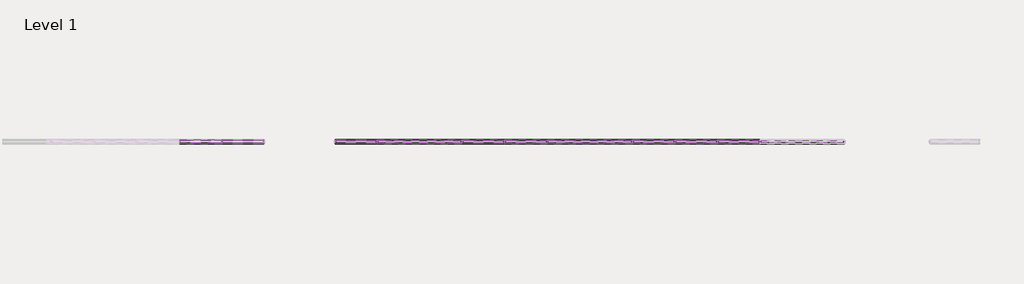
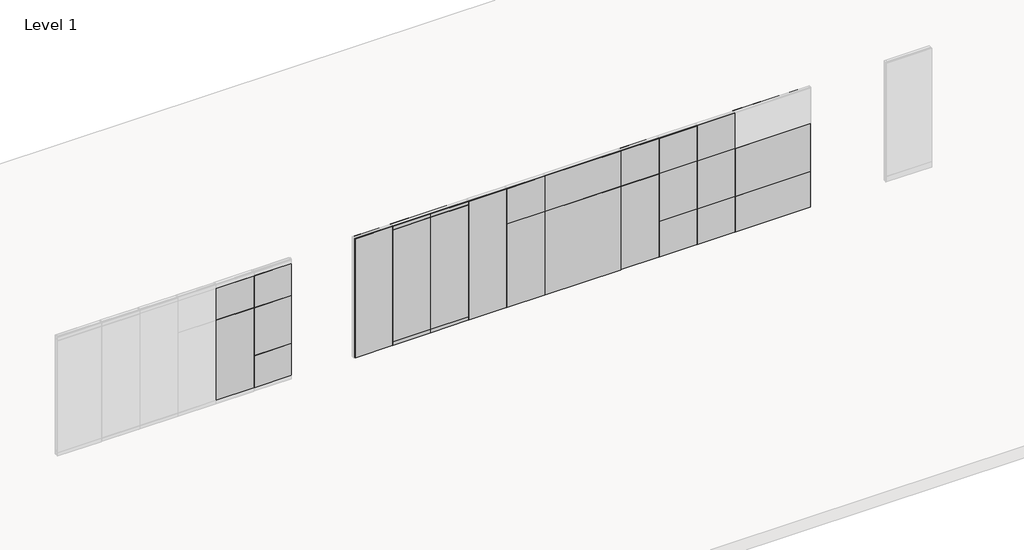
# One storey, part 6 of 22: 107 proxies.
"""IFC4 building model written with IfcOpenShell, lengths in millimetres."""

from ifc_helpers import new_model, si_unit, origin, place, context, project, spatial, transform, mapped, element, save
from components import fascia_teknion_ceiling_and_base_fpb1_b7746e3f, fascia_teknion_ceiling_and_base_fpb1_fca0640a, fascia_teknion_ceiling_and_base_fpb1_086ac043, fascia_teknion_ceiling_and_base_fpb1_76749516, fascia_teknion_ceiling_and_base_fpb1_e3f5eff7, fascia_teknion_ceiling_and_base_fpb1_3a73742f, frame_teknion_horizontal_rail_5872ae1a, frame_teknion_horizontal_rail_46ee653b, frame_teknion_horizontal_rail_5dd37d62, frame_teknion_horizontal_rail_fbfe6c54, full_f94a2816, full_1a342aed, full_e445f669, level_i_215115a4, level_i_cf48de54, level_i_c1e683c6, level_i_87b26980, level_i_0481ec7f, level_ii_d92933f0, level_ii_5838736d, level_ii_d9937d3a, level_ii_c8f04d20, level_ii_2f074b98, level_iii_17d9b208, level_iii_d208549f, level_iii_3557bc1e, level_iii_57fc346d, level_iii_7577bcf6, monolithic_level_i_61e75e15, monolithic_level_i_13c59c03, segmented_level_i_b619f2b0, segmented_level_i_812e5143, segmented_level_i_235b6383, segmented_level_ii_95ed46a7, segmented_level_ii_6dac37f0, segmented_monolithic_level_i_26a9d159, segmented_monolithic_level_i_864a3625, segmented_monolithic_level_ii_ef75357c, segmented_monolithic_level_ii_36634c45, smart_fascia_73ffb3d4, working_wall_monolithic_level_i_ddfac440, working_wall_monolithic_level_i_dfc08b04

model = new_model("IFC4")

# Units and contexts
model_context = context("Model", 3, world=origin())
ifc_project = project(units=[si_unit("LENGTHUNIT", "METRE", prefix="MILLI")], contexts=[model_context])

# Site, building, storey
site = spatial("IfcSite", under=ifc_project)
building = spatial("IfcBuilding", under=site)
storey = spatial("IfcBuildingStorey", under=building, Name="Level 1", Elevation=0.0)

# Proxies
placement = place(None, origin())
fascia_teknion_ceiling_and_base_fpb1_shape = fascia_teknion_ceiling_and_base_fpb1_b7746e3f(model_context)
element("IfcBuildingElementProxy", 1, Name="Fascia-Teknion-Ceiling_and_Base : FPB1", ObjectType="Fascia-Teknion-Ceiling_and_Base : FPB1", at=placement, inside=storey, context=model_context, shape_type="MappedRepresentation", body=[
    mapped(fascia_teknion_ceiling_and_base_fpb1_shape, transform((-79003.3636663, 1843.3402105, 15.875), x_axis=(1.0, 0.0, 0.0), y_axis=(0.0, 1.0, 0.0), z_axis=(0.0, 0.0, 1.0))),
])
fascia_teknion_ceiling_and_base_fpb1_2_shape = fascia_teknion_ceiling_and_base_fpb1_fca0640a(model_context)
element("IfcBuildingElementProxy", 2, Name="Fascia-Teknion-Ceiling_and_Base : FPB1", ObjectType="Fascia-Teknion-Ceiling_and_Base : FPB1", at=placement, inside=storey, context=model_context, shape_type="MappedRepresentation", body=[
    mapped(fascia_teknion_ceiling_and_base_fpb1_2_shape, transform((-84939.9687444, 1843.3402105, 15.875), x_axis=(1.0, 0.0, 0.0), y_axis=(0.0, 1.0, 0.0), z_axis=(0.0, 0.0, 1.0))),
])
element("IfcBuildingElementProxy", 3, Name="Fascia-Teknion-Ceiling_and_Base : FPB1", ObjectType="Fascia-Teknion-Ceiling_and_Base : FPB1", at=placement, inside=storey, context=model_context, shape_type="MappedRepresentation", body=[
    mapped(fascia_teknion_ceiling_and_base_fpb1_2_shape, transform((-82196.7687444, 1843.3402105, 15.875), x_axis=(1.0, 0.0, 0.0), y_axis=(0.0, 1.0, 0.0), z_axis=(0.0, 0.0, 1.0))),
])
element("IfcBuildingElementProxy", 4, Name="Fascia-Teknion-Ceiling_and_Base : FPB1", ObjectType="Fascia-Teknion-Ceiling_and_Base : FPB1", at=placement, inside=storey, context=model_context, shape_type="MappedRepresentation", body=[
    mapped(fascia_teknion_ceiling_and_base_fpb1_2_shape, transform((-81282.3687444, 1843.3402105, 15.875), x_axis=(1.0, 0.0, 0.0), y_axis=(0.0, 1.0, 0.0), z_axis=(0.0, 0.0, 1.0))),
])
element("IfcBuildingElementProxy", 5, Name="Fascia-Teknion-Ceiling_and_Base : FPB1", ObjectType="Fascia-Teknion-Ceiling_and_Base : FPB1", at=placement, inside=storey, context=model_context, shape_type="MappedRepresentation", body=[
    mapped(fascia_teknion_ceiling_and_base_fpb1_2_shape, transform((-80367.9687444, 1843.3402105, 15.875), x_axis=(1.0, 0.0, 0.0), y_axis=(0.0, 1.0, 0.0), z_axis=(0.0, 0.0, 1.0))),
])
element("IfcBuildingElementProxy", 6, Name="Fascia-Teknion-Ceiling_and_Base : FPB1", ObjectType="Fascia-Teknion-Ceiling_and_Base : FPB1", at=placement, inside=storey, context=model_context, shape_type="MappedRepresentation", body=[
    mapped(fascia_teknion_ceiling_and_base_fpb1_2_shape, transform((-85854.3687444, 1843.3402105, 15.875), x_axis=(1.0, 0.0, 0.0), y_axis=(0.0, 1.0, 0.0), z_axis=(0.0, 0.0, 1.0))),
])
fascia_teknion_ceiling_and_base_fpb1_3_shape = fascia_teknion_ceiling_and_base_fpb1_086ac043(model_context)
element("IfcBuildingElementProxy", 7, Name="Fascia-Teknion-Ceiling_and_Base : FPB1", ObjectType="Fascia-Teknion-Ceiling_and_Base : FPB1", at=placement, inside=storey, context=model_context, shape_type="MappedRepresentation", body=[
    mapped(fascia_teknion_ceiling_and_base_fpb1_3_shape, transform((-83568.3687444, 1843.3402105, 15.875), x_axis=(1.0, 0.0, 0.0), y_axis=(0.0, 1.0, 0.0), z_axis=(0.0, 0.0, 1.0))),
])
fascia_teknion_ceiling_and_base_fpb1_4_shape = fascia_teknion_ceiling_and_base_fpb1_76749516(model_context)
element("IfcBuildingElementProxy", 8, Name="Fascia-Teknion-Ceiling_and_Base : FPB1", ObjectType="Fascia-Teknion-Ceiling_and_Base : FPB1", at=placement, inside=storey, context=model_context, shape_type="MappedRepresentation", body=[
    mapped(fascia_teknion_ceiling_and_base_fpb1_4_shape, transform((-88590.5738225, 1843.3402105, 15.875), x_axis=(1.0, 0.0, 0.0), y_axis=(0.0, 1.0, 0.0), z_axis=(0.0, 0.0, 1.0))),
])
fascia_teknion_ceiling_and_base_fpb1_5_shape = fascia_teknion_ceiling_and_base_fpb1_e3f5eff7(model_context)
element("IfcBuildingElementProxy", 9, Name="Fascia-Teknion-Ceiling_and_Base : FPB1", ObjectType="Fascia-Teknion-Ceiling_and_Base : FPB1", at=placement, inside=storey, context=model_context, shape_type="MappedRepresentation", body=[
    mapped(fascia_teknion_ceiling_and_base_fpb1_5_shape, transform((-87681.5812444, 1843.3402105, 15.875), x_axis=(1.0, 0.0, 0.0), y_axis=(0.0, 1.0, 0.0), z_axis=(0.0, 0.0, 1.0))),
])
element("IfcBuildingElementProxy", 10, Name="Fascia-Teknion-Ceiling_and_Base : FPB1", ObjectType="Fascia-Teknion-Ceiling_and_Base : FPB1", at=placement, inside=storey, context=model_context, shape_type="MappedRepresentation", body=[
    mapped(fascia_teknion_ceiling_and_base_fpb1_5_shape, transform((-86770.3562444, 1781.3642105, 15.875), x_axis=(-1.0, 0.0, 0.0), y_axis=(0.0, -1.0, 0.0), z_axis=(0.0, 0.0, 1.0))),
])
fascia_teknion_ceiling_and_base_fpb1_6_shape = fascia_teknion_ceiling_and_base_fpb1_3a73742f(model_context)
element("IfcBuildingElementProxy", 11, Name="Fascia-Teknion-Ceiling_and_Base : FPB1", ObjectType="Fascia-Teknion-Ceiling_and_Base : FPB1", at=placement, inside=storey, context=model_context, shape_type="MappedRepresentation", body=[
    mapped(fascia_teknion_ceiling_and_base_fpb1_6_shape, transform((-87681.5812444, 1781.3642105, 15.875), x_axis=(1.0, 0.0, 0.0), y_axis=(0.0, 1.0, 0.0), z_axis=(0.0, 0.0, 1.0))),
])
element("IfcBuildingElementProxy", 12, Name="Fascia-Teknion-Ceiling_and_Base : FPB1", ObjectType="Fascia-Teknion-Ceiling_and_Base : FPB1", at=placement, inside=storey, context=model_context, shape_type="MappedRepresentation", body=[
    mapped(fascia_teknion_ceiling_and_base_fpb1_6_shape, transform((-86770.3562444, 1843.3402105, 15.875), x_axis=(-1.0, 0.0, 0.0), y_axis=(0.0, -1.0, 0.0), z_axis=(0.0, 0.0, 1.0))),
])
element("IfcBuildingElementProxy", 13, Name="Fascia-Teknion-Ceiling_and_Base : FPC", ObjectType="Fascia-Teknion-Ceiling_and_Base : FPC", at=placement, inside=storey, context=model_context, shape_type="MappedRepresentation", body=[
    mapped(fascia_teknion_ceiling_and_base_fpb1_shape, transform((-79003.3636663, 1843.3402105, 2950.845), x_axis=(1.0, 0.0, 0.0), y_axis=(0.0, 1.0, 0.0), z_axis=(0.0, 0.0, 1.0))),
])
element("IfcBuildingElementProxy", 14, Name="Fascia-Teknion-Ceiling_and_Base : FPC", ObjectType="Fascia-Teknion-Ceiling_and_Base : FPC", at=placement, inside=storey, context=model_context, shape_type="MappedRepresentation", body=[
    mapped(fascia_teknion_ceiling_and_base_fpb1_2_shape, transform((-84939.9687444, 1843.3402105, 2950.845), x_axis=(1.0, 0.0, 0.0), y_axis=(0.0, 1.0, 0.0), z_axis=(0.0, 0.0, 1.0))),
])
element("IfcBuildingElementProxy", 15, Name="Fascia-Teknion-Ceiling_and_Base : FPC", ObjectType="Fascia-Teknion-Ceiling_and_Base : FPC", at=placement, inside=storey, context=model_context, shape_type="MappedRepresentation", body=[
    mapped(fascia_teknion_ceiling_and_base_fpb1_2_shape, transform((-82196.7687444, 1843.3402105, 2950.845), x_axis=(1.0, 0.0, 0.0), y_axis=(0.0, 1.0, 0.0), z_axis=(0.0, 0.0, 1.0))),
])
element("IfcBuildingElementProxy", 16, Name="Fascia-Teknion-Ceiling_and_Base : FPC", ObjectType="Fascia-Teknion-Ceiling_and_Base : FPC", at=placement, inside=storey, context=model_context, shape_type="MappedRepresentation", body=[
    mapped(fascia_teknion_ceiling_and_base_fpb1_2_shape, transform((-81282.3687444, 1843.3402105, 2950.845), x_axis=(1.0, 0.0, 0.0), y_axis=(0.0, 1.0, 0.0), z_axis=(0.0, 0.0, 1.0))),
])
element("IfcBuildingElementProxy", 17, Name="Fascia-Teknion-Ceiling_and_Base : FPC", ObjectType="Fascia-Teknion-Ceiling_and_Base : FPC", at=placement, inside=storey, context=model_context, shape_type="MappedRepresentation", body=[
    mapped(fascia_teknion_ceiling_and_base_fpb1_2_shape, transform((-80367.9687444, 1843.3402105, 2950.845), x_axis=(1.0, 0.0, 0.0), y_axis=(0.0, 1.0, 0.0), z_axis=(0.0, 0.0, 1.0))),
])
element("IfcBuildingElementProxy", 18, Name="Fascia-Teknion-Ceiling_and_Base : FPC", ObjectType="Fascia-Teknion-Ceiling_and_Base : FPC", at=placement, inside=storey, context=model_context, shape_type="MappedRepresentation", body=[
    mapped(fascia_teknion_ceiling_and_base_fpb1_2_shape, transform((-85854.3687444, 1843.3402105, 2950.845), x_axis=(1.0, 0.0, 0.0), y_axis=(0.0, 1.0, 0.0), z_axis=(0.0, 0.0, 1.0))),
])
element("IfcBuildingElementProxy", 19, Name="Fascia-Teknion-Ceiling_and_Base : FPC", ObjectType="Fascia-Teknion-Ceiling_and_Base : FPC", at=placement, inside=storey, context=model_context, shape_type="MappedRepresentation", body=[
    mapped(fascia_teknion_ceiling_and_base_fpb1_3_shape, transform((-83568.3687444, 1843.3402105, 2950.845), x_axis=(1.0, 0.0, 0.0), y_axis=(0.0, 1.0, 0.0), z_axis=(0.0, 0.0, 1.0))),
])
element("IfcBuildingElementProxy", 20, Name="Fascia-Teknion-Ceiling_and_Base : FPC", ObjectType="Fascia-Teknion-Ceiling_and_Base : FPC", at=placement, inside=storey, context=model_context, shape_type="MappedRepresentation", body=[
    mapped(fascia_teknion_ceiling_and_base_fpb1_4_shape, transform((-88590.5738225, 1843.3402105, 2950.845), x_axis=(1.0, 0.0, 0.0), y_axis=(0.0, 1.0, 0.0), z_axis=(0.0, 0.0, 1.0))),
])
element("IfcBuildingElementProxy", 21, Name="Fascia-Teknion-Ceiling_and_Base : FPC", ObjectType="Fascia-Teknion-Ceiling_and_Base : FPC", at=placement, inside=storey, context=model_context, shape_type="MappedRepresentation", body=[
    mapped(fascia_teknion_ceiling_and_base_fpb1_5_shape, transform((-87681.5812444, 1843.3402105, 2950.845), x_axis=(1.0, 0.0, 0.0), y_axis=(0.0, 1.0, 0.0), z_axis=(0.0, 0.0, 1.0))),
])
element("IfcBuildingElementProxy", 22, Name="Fascia-Teknion-Ceiling_and_Base : FPC", ObjectType="Fascia-Teknion-Ceiling_and_Base : FPC", at=placement, inside=storey, context=model_context, shape_type="MappedRepresentation", body=[
    mapped(fascia_teknion_ceiling_and_base_fpb1_5_shape, transform((-86770.3562444, 1781.3642105, 2950.845), x_axis=(-1.0, 0.0, 0.0), y_axis=(0.0, -1.0, 0.0), z_axis=(0.0, 0.0, 1.0))),
])
element("IfcBuildingElementProxy", 23, Name="Fascia-Teknion-Ceiling_and_Base : FPC", ObjectType="Fascia-Teknion-Ceiling_and_Base : FPC", at=placement, inside=storey, context=model_context, shape_type="MappedRepresentation", body=[
    mapped(fascia_teknion_ceiling_and_base_fpb1_6_shape, transform((-87681.5812444, 1781.3642105, 2950.845), x_axis=(1.0, 0.0, 0.0), y_axis=(0.0, 1.0, 0.0), z_axis=(0.0, 0.0, 1.0))),
])
element("IfcBuildingElementProxy", 24, Name="Fascia-Teknion-Ceiling_and_Base : FPC", ObjectType="Fascia-Teknion-Ceiling_and_Base : FPC", at=placement, inside=storey, context=model_context, shape_type="MappedRepresentation", body=[
    mapped(fascia_teknion_ceiling_and_base_fpb1_6_shape, transform((-86770.3562444, 1843.3402105, 2950.845), x_axis=(-1.0, 0.0, 0.0), y_axis=(0.0, -1.0, 0.0), z_axis=(0.0, 0.0, 1.0))),
])
frame_teknion_horizontal_rail_shape = frame_teknion_horizontal_rail_5872ae1a(model_context)
element("IfcBuildingElementProxy", 25, Name="Frame-Teknion-Horizontal_Rail : FPKK", ObjectType="Frame-Teknion-Horizontal_Rail : FPKK", at=placement, inside=storey, context=model_context, shape_type="MappedRepresentation", body=[
    mapped(frame_teknion_horizontal_rail_shape, transform((-88590.5738225, 1812.3522105, 917.575), x_axis=(1.0, 0.0, 0.0), y_axis=(0.0, 1.0, 0.0), z_axis=(0.0, 0.0, 1.0))),
])
element("IfcBuildingElementProxy", 26, Name="Frame-Teknion-Horizontal_Rail : FPKK", ObjectType="Frame-Teknion-Horizontal_Rail : FPKK", at=placement, inside=storey, context=model_context, shape_type="MappedRepresentation", body=[
    mapped(frame_teknion_horizontal_rail_shape, transform((-88590.5738225, 1812.3522105, 2136.775), x_axis=(1.0, 0.0, 0.0), y_axis=(0.0, 1.0, 0.0), z_axis=(0.0, 0.0, 1.0))),
])
element("IfcBuildingElementProxy", 27, Name="Frame-Teknion-Horizontal_Rail : FPKK", ObjectType="Frame-Teknion-Horizontal_Rail : FPKK", at=placement, inside=storey, context=model_context, shape_type="MappedRepresentation", body=[
    mapped(frame_teknion_horizontal_rail_shape, transform((-88590.5738225, 1812.3522105, 100.457), x_axis=(1.0, 0.0, 0.0), y_axis=(0.0, 1.0, 0.0), z_axis=(0.0, 0.0, 1.0))),
])
element("IfcBuildingElementProxy", 28, Name="Frame-Teknion-Horizontal_Rail : FPKK", ObjectType="Frame-Teknion-Horizontal_Rail : FPKK", at=placement, inside=storey, context=model_context, shape_type="MappedRepresentation", body=[
    mapped(frame_teknion_horizontal_rail_shape, transform((-88590.5738225, 1812.3522105, 2949.1305), x_axis=(1.0, 0.0, 0.0), y_axis=(0.0, 1.0, 0.0), z_axis=(0.0, 0.0, 1.0))),
])
element("IfcBuildingElementProxy", 29, Name="Frame-Teknion-Horizontal_Rail : FPKK", ObjectType="Frame-Teknion-Horizontal_Rail : FPKK", at=placement, inside=storey, context=model_context, shape_type="MappedRepresentation", body=[
    mapped(frame_teknion_horizontal_rail_shape, transform((-91017.5636663, 1812.3522105, 97.155), x_axis=(1.0, 0.0, 0.0), y_axis=(0.0, 1.0, 0.0), z_axis=(0.0, 0.0, 1.0))),
])
element("IfcBuildingElementProxy", 30, Name="Frame-Teknion-Horizontal_Rail : FPKK", ObjectType="Frame-Teknion-Horizontal_Rail : FPKK", at=placement, inside=storey, context=model_context, shape_type="MappedRepresentation", body=[
    mapped(frame_teknion_horizontal_rail_shape, transform((-91017.5636663, 1812.3522105, 2949.1305), x_axis=(1.0, 0.0, 0.0), y_axis=(0.0, 1.0, 0.0), z_axis=(0.0, 0.0, 1.0))),
])
frame_teknion_horizontal_rail_2_shape = frame_teknion_horizontal_rail_46ee653b(model_context)
element("IfcBuildingElementProxy", 31, Name="Frame-Teknion-Horizontal_Rail : FPKK", ObjectType="Frame-Teknion-Horizontal_Rail : FPKK", at=placement, inside=storey, context=model_context, shape_type="MappedRepresentation", body=[
    mapped(frame_teknion_horizontal_rail_2_shape, transform((-85854.3687444, 1812.3522105, 2136.775), x_axis=(1.0, 0.0, 0.0), y_axis=(0.0, 1.0, 0.0), z_axis=(0.0, 0.0, 1.0))),
])
element("IfcBuildingElementProxy", 32, Name="Frame-Teknion-Horizontal_Rail : FPKK", ObjectType="Frame-Teknion-Horizontal_Rail : FPKK", at=placement, inside=storey, context=model_context, shape_type="MappedRepresentation", body=[
    mapped(frame_teknion_horizontal_rail_2_shape, transform((-85854.3687444, 1812.3522105, 100.457), x_axis=(1.0, 0.0, 0.0), y_axis=(0.0, 1.0, 0.0), z_axis=(0.0, 0.0, 1.0))),
])
element("IfcBuildingElementProxy", 33, Name="Frame-Teknion-Horizontal_Rail : FPKK", ObjectType="Frame-Teknion-Horizontal_Rail : FPKK", at=placement, inside=storey, context=model_context, shape_type="MappedRepresentation", body=[
    mapped(frame_teknion_horizontal_rail_2_shape, transform((-85854.3687444, 1812.3522105, 2949.1305), x_axis=(1.0, 0.0, 0.0), y_axis=(0.0, 1.0, 0.0), z_axis=(0.0, 0.0, 1.0))),
])
element("IfcBuildingElementProxy", 34, Name="Frame-Teknion-Horizontal_Rail : FPKK", ObjectType="Frame-Teknion-Horizontal_Rail : FPKK", at=placement, inside=storey, context=model_context, shape_type="MappedRepresentation", body=[
    mapped(frame_teknion_horizontal_rail_2_shape, transform((-84939.9687444, 1812.3522105, 2136.775), x_axis=(1.0, 0.0, 0.0), y_axis=(0.0, 1.0, 0.0), z_axis=(0.0, 0.0, 1.0))),
])
element("IfcBuildingElementProxy", 35, Name="Frame-Teknion-Horizontal_Rail : FPKK", ObjectType="Frame-Teknion-Horizontal_Rail : FPKK", at=placement, inside=storey, context=model_context, shape_type="MappedRepresentation", body=[
    mapped(frame_teknion_horizontal_rail_2_shape, transform((-84939.9687444, 1812.3522105, 100.457), x_axis=(1.0, 0.0, 0.0), y_axis=(0.0, 1.0, 0.0), z_axis=(0.0, 0.0, 1.0))),
])
element("IfcBuildingElementProxy", 36, Name="Frame-Teknion-Horizontal_Rail : FPKK", ObjectType="Frame-Teknion-Horizontal_Rail : FPKK", at=placement, inside=storey, context=model_context, shape_type="MappedRepresentation", body=[
    mapped(frame_teknion_horizontal_rail_2_shape, transform((-84939.9687444, 1812.3522105, 2949.1305), x_axis=(1.0, 0.0, 0.0), y_axis=(0.0, 1.0, 0.0), z_axis=(0.0, 0.0, 1.0))),
])
element("IfcBuildingElementProxy", 37, Name="Frame-Teknion-Horizontal_Rail : FPKK", ObjectType="Frame-Teknion-Horizontal_Rail : FPKK", at=placement, inside=storey, context=model_context, shape_type="MappedRepresentation", body=[
    mapped(frame_teknion_horizontal_rail_2_shape, transform((-82196.7687444, 1812.3522105, 917.575), x_axis=(1.0, 0.0, 0.0), y_axis=(0.0, 1.0, 0.0), z_axis=(0.0, 0.0, 1.0))),
])
element("IfcBuildingElementProxy", 38, Name="Frame-Teknion-Horizontal_Rail : FPKK", ObjectType="Frame-Teknion-Horizontal_Rail : FPKK", at=placement, inside=storey, context=model_context, shape_type="MappedRepresentation", body=[
    mapped(frame_teknion_horizontal_rail_2_shape, transform((-82196.7687444, 1812.3522105, 2136.775), x_axis=(1.0, 0.0, 0.0), y_axis=(0.0, 1.0, 0.0), z_axis=(0.0, 0.0, 1.0))),
])
element("IfcBuildingElementProxy", 39, Name="Frame-Teknion-Horizontal_Rail : FPKK", ObjectType="Frame-Teknion-Horizontal_Rail : FPKK", at=placement, inside=storey, context=model_context, shape_type="MappedRepresentation", body=[
    mapped(frame_teknion_horizontal_rail_2_shape, transform((-82196.7687444, 1812.3522105, 100.457), x_axis=(1.0, 0.0, 0.0), y_axis=(0.0, 1.0, 0.0), z_axis=(0.0, 0.0, 1.0))),
])
element("IfcBuildingElementProxy", 40, Name="Frame-Teknion-Horizontal_Rail : FPKK", ObjectType="Frame-Teknion-Horizontal_Rail : FPKK", at=placement, inside=storey, context=model_context, shape_type="MappedRepresentation", body=[
    mapped(frame_teknion_horizontal_rail_2_shape, transform((-82196.7687444, 1812.3522105, 2949.1305), x_axis=(1.0, 0.0, 0.0), y_axis=(0.0, 1.0, 0.0), z_axis=(0.0, 0.0, 1.0))),
])
element("IfcBuildingElementProxy", 41, Name="Frame-Teknion-Horizontal_Rail : FPKK", ObjectType="Frame-Teknion-Horizontal_Rail : FPKK", at=placement, inside=storey, context=model_context, shape_type="MappedRepresentation", body=[
    mapped(frame_teknion_horizontal_rail_2_shape, transform((-81282.3687444, 1812.3522105, 917.575), x_axis=(1.0, 0.0, 0.0), y_axis=(0.0, 1.0, 0.0), z_axis=(0.0, 0.0, 1.0))),
])
element("IfcBuildingElementProxy", 42, Name="Frame-Teknion-Horizontal_Rail : FPKK", ObjectType="Frame-Teknion-Horizontal_Rail : FPKK", at=placement, inside=storey, context=model_context, shape_type="MappedRepresentation", body=[
    mapped(frame_teknion_horizontal_rail_2_shape, transform((-81282.3687444, 1812.3522105, 2136.775), x_axis=(1.0, 0.0, 0.0), y_axis=(0.0, 1.0, 0.0), z_axis=(0.0, 0.0, 1.0))),
])
element("IfcBuildingElementProxy", 43, Name="Frame-Teknion-Horizontal_Rail : FPKK", ObjectType="Frame-Teknion-Horizontal_Rail : FPKK", at=placement, inside=storey, context=model_context, shape_type="MappedRepresentation", body=[
    mapped(frame_teknion_horizontal_rail_2_shape, transform((-81282.3687444, 1812.3522105, 100.457), x_axis=(1.0, 0.0, 0.0), y_axis=(0.0, 1.0, 0.0), z_axis=(0.0, 0.0, 1.0))),
])
element("IfcBuildingElementProxy", 44, Name="Frame-Teknion-Horizontal_Rail : FPKK", ObjectType="Frame-Teknion-Horizontal_Rail : FPKK", at=placement, inside=storey, context=model_context, shape_type="MappedRepresentation", body=[
    mapped(frame_teknion_horizontal_rail_2_shape, transform((-81282.3687444, 1812.3522105, 2949.1305), x_axis=(1.0, 0.0, 0.0), y_axis=(0.0, 1.0, 0.0), z_axis=(0.0, 0.0, 1.0))),
])
element("IfcBuildingElementProxy", 45, Name="Frame-Teknion-Horizontal_Rail : FPKK", ObjectType="Frame-Teknion-Horizontal_Rail : FPKK", at=placement, inside=storey, context=model_context, shape_type="MappedRepresentation", body=[
    mapped(frame_teknion_horizontal_rail_2_shape, transform((-80367.9687444, 1812.3522105, 917.575), x_axis=(1.0, 0.0, 0.0), y_axis=(0.0, 1.0, 0.0), z_axis=(0.0, 0.0, 1.0))),
])
element("IfcBuildingElementProxy", 46, Name="Frame-Teknion-Horizontal_Rail : FPKK", ObjectType="Frame-Teknion-Horizontal_Rail : FPKK", at=placement, inside=storey, context=model_context, shape_type="MappedRepresentation", body=[
    mapped(frame_teknion_horizontal_rail_2_shape, transform((-80367.9687444, 1812.3522105, 2136.775), x_axis=(1.0, 0.0, 0.0), y_axis=(0.0, 1.0, 0.0), z_axis=(0.0, 0.0, 1.0))),
])
element("IfcBuildingElementProxy", 47, Name="Frame-Teknion-Horizontal_Rail : FPKK", ObjectType="Frame-Teknion-Horizontal_Rail : FPKK", at=placement, inside=storey, context=model_context, shape_type="MappedRepresentation", body=[
    mapped(frame_teknion_horizontal_rail_2_shape, transform((-80367.9687444, 1812.3522105, 100.457), x_axis=(1.0, 0.0, 0.0), y_axis=(0.0, 1.0, 0.0), z_axis=(0.0, 0.0, 1.0))),
])
element("IfcBuildingElementProxy", 48, Name="Frame-Teknion-Horizontal_Rail : FPKK", ObjectType="Frame-Teknion-Horizontal_Rail : FPKK", at=placement, inside=storey, context=model_context, shape_type="MappedRepresentation", body=[
    mapped(frame_teknion_horizontal_rail_2_shape, transform((-80367.9687444, 1812.3522105, 2949.1305), x_axis=(1.0, 0.0, 0.0), y_axis=(0.0, 1.0, 0.0), z_axis=(0.0, 0.0, 1.0))),
])
element("IfcBuildingElementProxy", 49, Name="Frame-Teknion-Horizontal_Rail : FPKK", ObjectType="Frame-Teknion-Horizontal_Rail : FPKK", at=placement, inside=storey, context=model_context, shape_type="MappedRepresentation", body=[
    mapped(frame_teknion_horizontal_rail_2_shape, transform((-91924.9687444, 1812.3522105, 97.155), x_axis=(1.0, 0.0, 0.0), y_axis=(0.0, 1.0, 0.0), z_axis=(0.0, 0.0, 1.0))),
])
element("IfcBuildingElementProxy", 50, Name="Frame-Teknion-Horizontal_Rail : FPKK", ObjectType="Frame-Teknion-Horizontal_Rail : FPKK", at=placement, inside=storey, context=model_context, shape_type="MappedRepresentation", body=[
    mapped(frame_teknion_horizontal_rail_2_shape, transform((-91924.9687444, 1812.3522105, 2949.1305), x_axis=(1.0, 0.0, 0.0), y_axis=(0.0, 1.0, 0.0), z_axis=(0.0, 0.0, 1.0))),
])
frame_teknion_horizontal_rail_3_shape = frame_teknion_horizontal_rail_5dd37d62(model_context)
element("IfcBuildingElementProxy", 51, Name="Frame-Teknion-Horizontal_Rail : FPKK", ObjectType="Frame-Teknion-Horizontal_Rail : FPKK", at=placement, inside=storey, context=model_context, shape_type="MappedRepresentation", body=[
    mapped(frame_teknion_horizontal_rail_3_shape, transform((-83568.3687444, 1812.3522105, 2136.775), x_axis=(1.0, 0.0, 0.0), y_axis=(0.0, 1.0, 0.0), z_axis=(0.0, 0.0, 1.0))),
])
element("IfcBuildingElementProxy", 52, Name="Frame-Teknion-Horizontal_Rail : FPKK", ObjectType="Frame-Teknion-Horizontal_Rail : FPKK", at=placement, inside=storey, context=model_context, shape_type="MappedRepresentation", body=[
    mapped(frame_teknion_horizontal_rail_3_shape, transform((-83568.3687444, 1812.3522105, 100.457), x_axis=(1.0, 0.0, 0.0), y_axis=(0.0, 1.0, 0.0), z_axis=(0.0, 0.0, 1.0))),
])
element("IfcBuildingElementProxy", 53, Name="Frame-Teknion-Horizontal_Rail : FPKK", ObjectType="Frame-Teknion-Horizontal_Rail : FPKK", at=placement, inside=storey, context=model_context, shape_type="MappedRepresentation", body=[
    mapped(frame_teknion_horizontal_rail_3_shape, transform((-83568.3687444, 1812.3522105, 2949.1305), x_axis=(1.0, 0.0, 0.0), y_axis=(0.0, 1.0, 0.0), z_axis=(0.0, 0.0, 1.0))),
])
element("IfcBuildingElementProxy", 54, Name="Frame-Teknion-Horizontal_Rail : FPKK", ObjectType="Frame-Teknion-Horizontal_Rail : FPKK", at=placement, inside=storey, context=model_context, shape_type="MappedRepresentation", body=[
    mapped(frame_teknion_horizontal_rail_3_shape, transform((-87225.9687444, 1812.3522105, 917.575), x_axis=(1.0, 0.0, 0.0), y_axis=(0.0, 1.0, 0.0), z_axis=(0.0, 0.0, 1.0))),
])
element("IfcBuildingElementProxy", 55, Name="Frame-Teknion-Horizontal_Rail : FPKK", ObjectType="Frame-Teknion-Horizontal_Rail : FPKK", at=placement, inside=storey, context=model_context, shape_type="MappedRepresentation", body=[
    mapped(frame_teknion_horizontal_rail_3_shape, transform((-87225.9687444, 1812.3522105, 2136.775), x_axis=(1.0, 0.0, 0.0), y_axis=(0.0, 1.0, 0.0), z_axis=(0.0, 0.0, 1.0))),
])
element("IfcBuildingElementProxy", 56, Name="Frame-Teknion-Horizontal_Rail : FPKK", ObjectType="Frame-Teknion-Horizontal_Rail : FPKK", at=placement, inside=storey, context=model_context, shape_type="MappedRepresentation", body=[
    mapped(frame_teknion_horizontal_rail_3_shape, transform((-87225.9687444, 1812.3522105, 97.155), x_axis=(1.0, 0.0, 0.0), y_axis=(0.0, 1.0, 0.0), z_axis=(0.0, 0.0, 1.0))),
])
element("IfcBuildingElementProxy", 57, Name="Frame-Teknion-Horizontal_Rail : FPKK", ObjectType="Frame-Teknion-Horizontal_Rail : FPKK", at=placement, inside=storey, context=model_context, shape_type="MappedRepresentation", body=[
    mapped(frame_teknion_horizontal_rail_3_shape, transform((-87225.9687444, 1812.3522105, 2949.1305), x_axis=(1.0, 0.0, 0.0), y_axis=(0.0, 1.0, 0.0), z_axis=(0.0, 0.0, 1.0))),
])
frame_teknion_horizontal_rail_4_shape = frame_teknion_horizontal_rail_fbfe6c54(model_context)
element("IfcBuildingElementProxy", 58, Name="Frame-Teknion-Horizontal_Rail : FPKK", ObjectType="Frame-Teknion-Horizontal_Rail : FPKK", at=placement, inside=storey, context=model_context, shape_type="MappedRepresentation", body=[
    mapped(frame_teknion_horizontal_rail_4_shape, transform((-79003.3636663, 1812.3522105, 917.575), x_axis=(1.0, 0.0, 0.0), y_axis=(0.0, 1.0, 0.0), z_axis=(0.0, 0.0, 1.0))),
])
element("IfcBuildingElementProxy", 59, Name="Frame-Teknion-Horizontal_Rail : FPKK", ObjectType="Frame-Teknion-Horizontal_Rail : FPKK", at=placement, inside=storey, context=model_context, shape_type="MappedRepresentation", body=[
    mapped(frame_teknion_horizontal_rail_4_shape, transform((-79003.3636663, 1812.3522105, 2136.775), x_axis=(1.0, 0.0, 0.0), y_axis=(0.0, 1.0, 0.0), z_axis=(0.0, 0.0, 1.0))),
])
element("IfcBuildingElementProxy", 60, Name="Frame-Teknion-Horizontal_Rail : FPKK", ObjectType="Frame-Teknion-Horizontal_Rail : FPKK", at=placement, inside=storey, context=model_context, shape_type="MappedRepresentation", body=[
    mapped(frame_teknion_horizontal_rail_4_shape, transform((-79003.3636663, 1812.3522105, 100.457), x_axis=(1.0, 0.0, 0.0), y_axis=(0.0, 1.0, 0.0), z_axis=(0.0, 0.0, 1.0))),
])
element("IfcBuildingElementProxy", 61, Name="Frame-Teknion-Horizontal_Rail : FPKK", ObjectType="Frame-Teknion-Horizontal_Rail : FPKK", at=placement, inside=storey, context=model_context, shape_type="MappedRepresentation", body=[
    mapped(frame_teknion_horizontal_rail_4_shape, transform((-79003.3636663, 1812.3522105, 2949.1305), x_axis=(1.0, 0.0, 0.0), y_axis=(0.0, 1.0, 0.0), z_axis=(0.0, 0.0, 1.0))),
])
full_shape = full_f94a2816(model_context)
element("IfcBuildingElementProxy", 62, Name="Panel-Fascia-Teknion-Altos-Standard : Full", ObjectType="Panel-Fascia-Teknion-Altos-Standard : Full", at=placement, inside=storey, context=model_context, shape_type="MappedRepresentation", body=[
    mapped(full_shape, transform((-84939.9687444, 1852.8652105, 100.457), x_axis=(1.0, 0.0, 0.0), y_axis=(0.0, 1.0, 0.0), z_axis=(0.0, 0.0, 1.0))),
])
element("IfcBuildingElementProxy", 63, Name="Panel-Fascia-Teknion-Altos-Standard : Full", ObjectType="Panel-Fascia-Teknion-Altos-Standard : Full", at=placement, inside=storey, context=model_context, shape_type="MappedRepresentation", body=[
    mapped(full_shape, transform((-81282.3687444, 1852.8652105, 100.457), x_axis=(1.0, 0.0, 0.0), y_axis=(0.0, 1.0, 0.0), z_axis=(0.0, 0.0, 1.0))),
])
full_2_shape = full_1a342aed(model_context)
element("IfcBuildingElementProxy", 64, Name="Panel-Fascia-Teknion-Altos-Standard : Full", ObjectType="Panel-Fascia-Teknion-Altos-Standard : Full", at=placement, inside=storey, context=model_context, shape_type="MappedRepresentation", body=[
    mapped(full_2_shape, transform((-86770.3562444, 1771.8392105, 100.457), x_axis=(1.0, 0.0, 0.0), y_axis=(0.0, 1.0, 0.0), z_axis=(0.0, 0.0, 1.0))),
])
full_3_shape = full_e445f669(model_context)
element("IfcBuildingElementProxy", 65, Name="Panel-Fascia-Teknion-Altos-Standard : Full", ObjectType="Panel-Fascia-Teknion-Altos-Standard : Full", at=placement, inside=storey, context=model_context, shape_type="MappedRepresentation", body=[
    mapped(full_3_shape, transform((-87681.5812444, 1771.8392105, 100.457), x_axis=(-1.0, 0.0, 0.0), y_axis=(0.0, -1.0, 0.0), z_axis=(0.0, 0.0, 1.0))),
])
level_i_shape = level_i_215115a4(model_context)
element("IfcBuildingElementProxy", 66, Name="Panel-Fascia-Teknion-Altos-Standard : Level I", ObjectType="Panel-Fascia-Teknion-Altos-Standard : Level I", at=placement, inside=storey, context=model_context, shape_type="MappedRepresentation", body=[
    mapped(level_i_shape, transform((-91924.9687444, 1852.8652105, 100.457), x_axis=(1.0, 0.0, 0.0), y_axis=(0.0, 1.0, 0.0), z_axis=(0.0, 0.0, 1.0))),
])
element("IfcBuildingElementProxy", 67, Name="Panel-Fascia-Teknion-Altos-Standard : Level I", ObjectType="Panel-Fascia-Teknion-Altos-Standard : Level I", at=placement, inside=storey, context=model_context, shape_type="MappedRepresentation", body=[
    mapped(level_i_shape, transform((-82196.7687444, 1852.8652105, 100.457), x_axis=(1.0, 0.0, 0.0), y_axis=(0.0, 1.0, 0.0), z_axis=(0.0, 0.0, 1.0))),
])
level_i_2_shape = level_i_cf48de54(model_context)
element("IfcBuildingElementProxy", 68, Name="Panel-Fascia-Teknion-Altos-Standard : Level I", ObjectType="Panel-Fascia-Teknion-Altos-Standard : Level I", at=placement, inside=storey, context=model_context, shape_type="MappedRepresentation", body=[
    mapped(level_i_2_shape, transform((-91017.5636663, 1852.8652105, 100.457), x_axis=(1.0, 0.0, 0.0), y_axis=(0.0, 1.0, 0.0), z_axis=(0.0, 0.0, 1.0))),
])
element("IfcBuildingElementProxy", 69, Name="Panel-Fascia-Teknion-Altos-Standard : Level I", ObjectType="Panel-Fascia-Teknion-Altos-Standard : Level I", at=placement, inside=storey, context=model_context, shape_type="MappedRepresentation", body=[
    mapped(level_i_2_shape, transform((-88590.5738225, 1852.8652105, 100.457), x_axis=(1.0, 0.0, 0.0), y_axis=(0.0, 1.0, 0.0), z_axis=(0.0, 0.0, 1.0))),
])
level_i_3_shape = level_i_c1e683c6(model_context)
element("IfcBuildingElementProxy", 70, Name="Panel-Fascia-Teknion-Altos-Standard : Level I", ObjectType="Panel-Fascia-Teknion-Altos-Standard : Level I", at=placement, inside=storey, context=model_context, shape_type="MappedRepresentation", body=[
    mapped(level_i_3_shape, transform((-91017.5636663, 1771.8392105, 100.457), x_axis=(1.0, 0.0, 0.0), y_axis=(0.0, 1.0, 0.0), z_axis=(0.0, 0.0, 1.0))),
])
level_i_4_shape = level_i_87b26980(model_context)
element("IfcBuildingElementProxy", 71, Name="Panel-Fascia-Teknion-Altos-Standard : Level I", ObjectType="Panel-Fascia-Teknion-Altos-Standard : Level I", at=placement, inside=storey, context=model_context, shape_type="MappedRepresentation", body=[
    mapped(level_i_4_shape, transform((-87681.5812444, 1852.8652105, 100.457), x_axis=(1.0, 0.0, 0.0), y_axis=(0.0, 1.0, 0.0), z_axis=(0.0, 0.0, 1.0))),
])
level_i_5_shape = level_i_0481ec7f(model_context)
element("IfcBuildingElementProxy", 72, Name="Panel-Fascia-Teknion-Altos-Standard : Level I", ObjectType="Panel-Fascia-Teknion-Altos-Standard : Level I", at=placement, inside=storey, context=model_context, shape_type="MappedRepresentation", body=[
    mapped(level_i_5_shape, transform((-86770.3562444, 1852.8652105, 100.457), x_axis=(-1.0, 0.0, 0.0), y_axis=(0.0, -1.0, 0.0), z_axis=(0.0, 0.0, 1.0))),
])
level_ii_shape = level_ii_d92933f0(model_context)
element("IfcBuildingElementProxy", 73, Name="Panel-Fascia-Teknion-Altos-Standard : Level II", ObjectType="Panel-Fascia-Teknion-Altos-Standard : Level II", at=placement, inside=storey, context=model_context, shape_type="MappedRepresentation", body=[
    mapped(level_ii_shape, transform((-88590.5738225, 1852.8652105, 917.575), x_axis=(1.0, 0.0, 0.0), y_axis=(0.0, 1.0, 0.0), z_axis=(0.0, 0.0, 1.0))),
])
level_ii_2_shape = level_ii_5838736d(model_context)
element("IfcBuildingElementProxy", 74, Name="Panel-Fascia-Teknion-Altos-Standard : Level II", ObjectType="Panel-Fascia-Teknion-Altos-Standard : Level II", at=placement, inside=storey, context=model_context, shape_type="MappedRepresentation", body=[
    mapped(level_ii_2_shape, transform((-82196.7687444, 1852.8652105, 917.575), x_axis=(1.0, 0.0, 0.0), y_axis=(0.0, 1.0, 0.0), z_axis=(0.0, 0.0, 1.0))),
])
level_ii_3_shape = level_ii_d9937d3a(model_context)
element("IfcBuildingElementProxy", 75, Name="Panel-Fascia-Teknion-Altos-Standard : Level II", ObjectType="Panel-Fascia-Teknion-Altos-Standard : Level II", at=placement, inside=storey, context=model_context, shape_type="MappedRepresentation", body=[
    mapped(level_ii_3_shape, transform((-91017.5636663, 1771.8392105, 917.575), x_axis=(1.0, 0.0, 0.0), y_axis=(0.0, 1.0, 0.0), z_axis=(0.0, 0.0, 1.0))),
])
level_ii_4_shape = level_ii_c8f04d20(model_context)
element("IfcBuildingElementProxy", 76, Name="Panel-Fascia-Teknion-Altos-Standard : Level II", ObjectType="Panel-Fascia-Teknion-Altos-Standard : Level II", at=placement, inside=storey, context=model_context, shape_type="MappedRepresentation", body=[
    mapped(level_ii_4_shape, transform((-81282.3687444, 1771.8392105, 917.575), x_axis=(1.0, 0.0, 0.0), y_axis=(0.0, 1.0, 0.0), z_axis=(0.0, 0.0, 1.0))),
])
element("IfcBuildingElementProxy", 77, Name="Panel-Fascia-Teknion-Altos-Standard : Level II", ObjectType="Panel-Fascia-Teknion-Altos-Standard : Level II", at=placement, inside=storey, context=model_context, shape_type="MappedRepresentation", body=[
    mapped(level_ii_4_shape, transform((-80367.9687444, 1771.8392105, 917.575), x_axis=(1.0, 0.0, 0.0), y_axis=(0.0, 1.0, 0.0), z_axis=(0.0, 0.0, 1.0))),
])
level_ii_5_shape = level_ii_2f074b98(model_context)
element("IfcBuildingElementProxy", 78, Name="Panel-Fascia-Teknion-Altos-Standard : Level II", ObjectType="Panel-Fascia-Teknion-Altos-Standard : Level II", at=placement, inside=storey, context=model_context, shape_type="MappedRepresentation", body=[
    mapped(level_ii_5_shape, transform((-79003.3636663, 1771.8392105, 917.575), x_axis=(1.0, 0.0, 0.0), y_axis=(0.0, 1.0, 0.0), z_axis=(0.0, 0.0, 1.0))),
])
level_iii_shape = level_iii_17d9b208(model_context)
element("IfcBuildingElementProxy", 79, Name="Panel-Fascia-Teknion-Altos-Standard : Level III", ObjectType="Panel-Fascia-Teknion-Altos-Standard : Level III", at=placement, inside=storey, context=model_context, shape_type="MappedRepresentation", body=[
    mapped(level_iii_shape, transform((-91924.9687444, 1852.8652105, 2136.775), x_axis=(1.0, 0.0, 0.0), y_axis=(0.0, 1.0, 0.0), z_axis=(0.0, 0.0, 1.0))),
])
element("IfcBuildingElementProxy", 80, Name="Panel-Fascia-Teknion-Altos-Standard : Level III", ObjectType="Panel-Fascia-Teknion-Altos-Standard : Level III", at=placement, inside=storey, context=model_context, shape_type="MappedRepresentation", body=[
    mapped(level_iii_shape, transform((-82196.7687444, 1852.8652105, 2136.775), x_axis=(1.0, 0.0, 0.0), y_axis=(0.0, 1.0, 0.0), z_axis=(0.0, 0.0, 1.0))),
])
level_iii_2_shape = level_iii_d208549f(model_context)
element("IfcBuildingElementProxy", 81, Name="Panel-Fascia-Teknion-Altos-Standard : Level III", ObjectType="Panel-Fascia-Teknion-Altos-Standard : Level III", at=placement, inside=storey, context=model_context, shape_type="MappedRepresentation", body=[
    mapped(level_iii_2_shape, transform((-91017.5636663, 1852.8652105, 2136.775), x_axis=(1.0, 0.0, 0.0), y_axis=(0.0, 1.0, 0.0), z_axis=(0.0, 0.0, 1.0))),
])
element("IfcBuildingElementProxy", 82, Name="Panel-Fascia-Teknion-Altos-Standard : Level III", ObjectType="Panel-Fascia-Teknion-Altos-Standard : Level III", at=placement, inside=storey, context=model_context, shape_type="MappedRepresentation", body=[
    mapped(level_iii_2_shape, transform((-88590.5738225, 1852.8652105, 2136.775), x_axis=(1.0, 0.0, 0.0), y_axis=(0.0, 1.0, 0.0), z_axis=(0.0, 0.0, 1.0))),
])
level_iii_3_shape = level_iii_3557bc1e(model_context)
element("IfcBuildingElementProxy", 83, Name="Panel-Fascia-Teknion-Altos-Standard : Level III", ObjectType="Panel-Fascia-Teknion-Altos-Standard : Level III", at=placement, inside=storey, context=model_context, shape_type="MappedRepresentation", body=[
    mapped(level_iii_3_shape, transform((-91017.5636663, 1771.8392105, 2136.775), x_axis=(1.0, 0.0, 0.0), y_axis=(0.0, 1.0, 0.0), z_axis=(0.0, 0.0, 1.0))),
])
level_iii_4_shape = level_iii_57fc346d(model_context)
element("IfcBuildingElementProxy", 84, Name="Panel-Fascia-Teknion-Altos-Standard : Level III", ObjectType="Panel-Fascia-Teknion-Altos-Standard : Level III", at=placement, inside=storey, context=model_context, shape_type="MappedRepresentation", body=[
    mapped(level_iii_4_shape, transform((-87681.5812444, 1852.8652105, 2136.775), x_axis=(1.0, 0.0, 0.0), y_axis=(0.0, 1.0, 0.0), z_axis=(0.0, 0.0, 1.0))),
])
level_iii_5_shape = level_iii_7577bcf6(model_context)
element("IfcBuildingElementProxy", 85, Name="Panel-Fascia-Teknion-Altos-Standard : Level III", ObjectType="Panel-Fascia-Teknion-Altos-Standard : Level III", at=placement, inside=storey, context=model_context, shape_type="MappedRepresentation", body=[
    mapped(level_iii_5_shape, transform((-86770.3562444, 1852.8652105, 2136.775), x_axis=(-1.0, 0.0, 0.0), y_axis=(0.0, -1.0, 0.0), z_axis=(0.0, 0.0, 1.0))),
])
monolithic_level_i_shape = monolithic_level_i_61e75e15(model_context)
element("IfcBuildingElementProxy", 86, Name="Panel-Fascia-Teknion-Altos-Standard : Monolithic Level I", ObjectType="Panel-Fascia-Teknion-Altos-Standard : Monolithic Level I", at=placement, inside=storey, context=model_context, shape_type="MappedRepresentation", body=[
    mapped(monolithic_level_i_shape, transform((-88590.5738225, 1771.8392105, 12.7), x_axis=(1.0, 0.0, 0.0), y_axis=(0.0, 1.0, 0.0), z_axis=(0.0, 0.0, 1.0))),
])
monolithic_level_i_2_shape = monolithic_level_i_13c59c03(model_context)
element("IfcBuildingElementProxy", 87, Name="Panel-Fascia-Teknion-Altos-Standard : Monolithic Level I", ObjectType="Panel-Fascia-Teknion-Altos-Standard : Monolithic Level I", at=placement, inside=storey, context=model_context, shape_type="MappedRepresentation", body=[
    mapped(monolithic_level_i_2_shape, transform((-85854.3687444, 1771.8392105, 12.7), x_axis=(1.0, 0.0, 0.0), y_axis=(0.0, 1.0, 0.0), z_axis=(0.0, 0.0, 1.0))),
])
segmented_level_i_shape = segmented_level_i_b619f2b0(model_context)
element("IfcBuildingElementProxy", 88, Name="Panel-Fascia-Teknion-Altos-Standard : Segmented Level I", ObjectType="Panel-Fascia-Teknion-Altos-Standard : Segmented Level I", at=placement, inside=storey, context=model_context, shape_type="MappedRepresentation", body=[
    mapped(segmented_level_i_shape, transform((-85854.3687444, 1852.8652105, 100.457), x_axis=(1.0, 0.0, 0.0), y_axis=(0.0, 1.0, 0.0), z_axis=(0.0, 0.0, 1.0))),
])
element("IfcBuildingElementProxy", 89, Name="Panel-Fascia-Teknion-Altos-Standard : Segmented Level I", ObjectType="Panel-Fascia-Teknion-Altos-Standard : Segmented Level I", at=placement, inside=storey, context=model_context, shape_type="MappedRepresentation", body=[
    mapped(segmented_level_i_shape, transform((-80367.9687444, 1852.8652105, 100.457), x_axis=(1.0, 0.0, 0.0), y_axis=(0.0, 1.0, 0.0), z_axis=(0.0, 0.0, 1.0))),
])
segmented_level_i_2_shape = segmented_level_i_812e5143(model_context)
element("IfcBuildingElementProxy", 90, Name="Panel-Fascia-Teknion-Altos-Standard : Segmented Level I", ObjectType="Panel-Fascia-Teknion-Altos-Standard : Segmented Level I", at=placement, inside=storey, context=model_context, shape_type="MappedRepresentation", body=[
    mapped(segmented_level_i_2_shape, transform((-83568.3687444, 1852.8652105, 100.457), x_axis=(1.0, 0.0, 0.0), y_axis=(0.0, 1.0, 0.0), z_axis=(0.0, 0.0, 1.0))),
])
segmented_level_i_3_shape = segmented_level_i_235b6383(model_context)
element("IfcBuildingElementProxy", 91, Name="Panel-Fascia-Teknion-Altos-Standard : Segmented Level I", ObjectType="Panel-Fascia-Teknion-Altos-Standard : Segmented Level I", at=placement, inside=storey, context=model_context, shape_type="MappedRepresentation", body=[
    mapped(segmented_level_i_3_shape, transform((-91924.9687444, 1771.8392105, 100.457), x_axis=(1.0, 0.0, 0.0), y_axis=(0.0, 1.0, 0.0), z_axis=(0.0, 0.0, 1.0))),
])
element("IfcBuildingElementProxy", 92, Name="Panel-Fascia-Teknion-Altos-Standard : Segmented Level II", ObjectType="Panel-Fascia-Teknion-Altos-Standard : Segmented Level II", at=placement, inside=storey, context=model_context, shape_type="MappedRepresentation", body=[
    mapped(level_iii_shape, transform((-85854.3687444, 1852.8652105, 2136.775), x_axis=(1.0, 0.0, 0.0), y_axis=(0.0, 1.0, 0.0), z_axis=(0.0, 0.0, 1.0))),
])
element("IfcBuildingElementProxy", 93, Name="Panel-Fascia-Teknion-Altos-Standard : Segmented Level II", ObjectType="Panel-Fascia-Teknion-Altos-Standard : Segmented Level II", at=placement, inside=storey, context=model_context, shape_type="MappedRepresentation", body=[
    mapped(level_iii_shape, transform((-80367.9687444, 1852.8652105, 2136.775), x_axis=(1.0, 0.0, 0.0), y_axis=(0.0, 1.0, 0.0), z_axis=(0.0, 0.0, 1.0))),
])
segmented_level_ii_shape = segmented_level_ii_95ed46a7(model_context)
element("IfcBuildingElementProxy", 94, Name="Panel-Fascia-Teknion-Altos-Standard : Segmented Level II", ObjectType="Panel-Fascia-Teknion-Altos-Standard : Segmented Level II", at=placement, inside=storey, context=model_context, shape_type="MappedRepresentation", body=[
    mapped(segmented_level_ii_shape, transform((-83568.3687444, 1852.8652105, 2136.775), x_axis=(1.0, 0.0, 0.0), y_axis=(0.0, 1.0, 0.0), z_axis=(0.0, 0.0, 1.0))),
])
segmented_level_ii_2_shape = segmented_level_ii_6dac37f0(model_context)
element("IfcBuildingElementProxy", 95, Name="Panel-Fascia-Teknion-Altos-Standard : Segmented Level II", ObjectType="Panel-Fascia-Teknion-Altos-Standard : Segmented Level II", at=placement, inside=storey, context=model_context, shape_type="MappedRepresentation", body=[
    mapped(segmented_level_ii_2_shape, transform((-91924.9687444, 1771.8392105, 2136.775), x_axis=(1.0, 0.0, 0.0), y_axis=(0.0, 1.0, 0.0), z_axis=(0.0, 0.0, 1.0))),
])
segmented_monolithic_level_i_shape = segmented_monolithic_level_i_26a9d159(model_context)
element("IfcBuildingElementProxy", 96, Name="Panel-Fascia-Teknion-Altos-Standard : Segmented Monolithic Level I", ObjectType="Panel-Fascia-Teknion-Altos-Standard : Segmented Monolithic Level I", at=placement, inside=storey, context=model_context, shape_type="MappedRepresentation", body=[
    mapped(segmented_monolithic_level_i_shape, transform((-84939.9687444, 1771.8392105, 12.7), x_axis=(1.0, 0.0, 0.0), y_axis=(0.0, 1.0, 0.0), z_axis=(0.0, 0.0, 1.0))),
])
element("IfcBuildingElementProxy", 97, Name="Panel-Fascia-Teknion-Altos-Standard : Segmented Monolithic Level I", ObjectType="Panel-Fascia-Teknion-Altos-Standard : Segmented Monolithic Level I", at=placement, inside=storey, context=model_context, shape_type="MappedRepresentation", body=[
    mapped(segmented_monolithic_level_i_shape, transform((-82196.7687444, 1771.8392105, 12.7), x_axis=(1.0, 0.0, 0.0), y_axis=(0.0, 1.0, 0.0), z_axis=(0.0, 0.0, 1.0))),
])
segmented_monolithic_level_i_2_shape = segmented_monolithic_level_i_864a3625(model_context)
element("IfcBuildingElementProxy", 98, Name="Panel-Fascia-Teknion-Altos-Standard : Segmented Monolithic Level I", ObjectType="Panel-Fascia-Teknion-Altos-Standard : Segmented Monolithic Level I", at=placement, inside=storey, context=model_context, shape_type="MappedRepresentation", body=[
    mapped(segmented_monolithic_level_i_2_shape, transform((-83568.3687444, 1771.8392105, 12.7), x_axis=(1.0, 0.0, 0.0), y_axis=(0.0, 1.0, 0.0), z_axis=(0.0, 0.0, 1.0))),
])
segmented_monolithic_level_ii_shape = segmented_monolithic_level_ii_ef75357c(model_context)
element("IfcBuildingElementProxy", 99, Name="Panel-Fascia-Teknion-Altos-Standard : Segmented Monolithic Level II", ObjectType="Panel-Fascia-Teknion-Altos-Standard : Segmented Monolithic Level II", at=placement, inside=storey, context=model_context, shape_type="MappedRepresentation", body=[
    mapped(segmented_monolithic_level_ii_shape, transform((-84939.9687444, 1771.8392105, 2136.775), x_axis=(1.0, 0.0, 0.0), y_axis=(0.0, 1.0, 0.0), z_axis=(0.0, 0.0, 1.0))),
])
element("IfcBuildingElementProxy", 100, Name="Panel-Fascia-Teknion-Altos-Standard : Segmented Monolithic Level II", ObjectType="Panel-Fascia-Teknion-Altos-Standard : Segmented Monolithic Level II", at=placement, inside=storey, context=model_context, shape_type="MappedRepresentation", body=[
    mapped(segmented_monolithic_level_ii_shape, transform((-82196.7687444, 1771.8392105, 2136.775), x_axis=(1.0, 0.0, 0.0), y_axis=(0.0, 1.0, 0.0), z_axis=(0.0, 0.0, 1.0))),
])
segmented_monolithic_level_ii_2_shape = segmented_monolithic_level_ii_36634c45(model_context)
element("IfcBuildingElementProxy", 101, Name="Panel-Fascia-Teknion-Altos-Standard : Segmented Monolithic Level II", ObjectType="Panel-Fascia-Teknion-Altos-Standard : Segmented Monolithic Level II", at=placement, inside=storey, context=model_context, shape_type="MappedRepresentation", body=[
    mapped(segmented_monolithic_level_ii_2_shape, transform((-83568.3687444, 1771.8392105, 2136.775), x_axis=(1.0, 0.0, 0.0), y_axis=(0.0, 1.0, 0.0), z_axis=(0.0, 0.0, 1.0))),
])
smart_fascia_shape = smart_fascia_73ffb3d4(model_context)
element("IfcBuildingElementProxy", 102, Name="Panel-Fascia-Teknion-Altos-Smart : Smart Fascia", ObjectType="Panel-Fascia-Teknion-Altos-Smart : Smart Fascia", at=placement, inside=storey, context=model_context, shape_type="MappedRepresentation", body=[
    mapped(smart_fascia_shape, transform((-87422.8456444, 1862.3902105, 917.575), x_axis=(1.0, 0.0, 0.0), y_axis=(0.0, 1.0, 0.0), z_axis=(0.0, 0.0, 1.0))),
])
working_wall_monolithic_level_i_shape = working_wall_monolithic_level_i_ddfac440(model_context)
element("IfcBuildingElementProxy", 103, Name="Panel-Fascia-Teknion-Altos-Standard : Working Wall Monolithic Level I", ObjectType="Panel-Fascia-Teknion-Altos-Standard : Working Wall Monolithic Level I", at=placement, inside=storey, context=model_context, shape_type="MappedRepresentation", body=[
    mapped(working_wall_monolithic_level_i_shape, transform((-81282.3687444, 1771.8392105, 12.7), x_axis=(1.0, 0.0, 0.0), y_axis=(0.0, 1.0, 0.0), z_axis=(0.0, 0.0, 1.0))),
])
element("IfcBuildingElementProxy", 104, Name="Panel-Fascia-Teknion-Altos-Standard : Working Wall Monolithic Level I", ObjectType="Panel-Fascia-Teknion-Altos-Standard : Working Wall Monolithic Level I", at=placement, inside=storey, context=model_context, shape_type="MappedRepresentation", body=[
    mapped(working_wall_monolithic_level_i_shape, transform((-80367.9687444, 1771.8392105, 12.7), x_axis=(1.0, 0.0, 0.0), y_axis=(0.0, 1.0, 0.0), z_axis=(0.0, 0.0, 1.0))),
])
working_wall_monolithic_level_i_2_shape = working_wall_monolithic_level_i_dfc08b04(model_context)
element("IfcBuildingElementProxy", 105, Name="Panel-Fascia-Teknion-Altos-Standard : Working Wall Monolithic Level I", ObjectType="Panel-Fascia-Teknion-Altos-Standard : Working Wall Monolithic Level I", at=placement, inside=storey, context=model_context, shape_type="MappedRepresentation", body=[
    mapped(working_wall_monolithic_level_i_2_shape, transform((-79003.3636663, 1771.8392105, 12.7), x_axis=(1.0, 0.0, 0.0), y_axis=(0.0, 1.0, 0.0), z_axis=(0.0, 0.0, 1.0))),
])
element("IfcBuildingElementProxy", 106, Name="Panel-Fascia-Teknion-Altos-Standard : Working Wall Monolithic Level III", ObjectType="Panel-Fascia-Teknion-Altos-Standard : Working Wall Monolithic Level III", at=placement, inside=storey, context=model_context, shape_type="MappedRepresentation", body=[
    mapped(segmented_monolithic_level_ii_shape, transform((-81282.3687444, 1771.8392105, 2136.775), x_axis=(1.0, 0.0, 0.0), y_axis=(0.0, 1.0, 0.0), z_axis=(0.0, 0.0, 1.0))),
])
element("IfcBuildingElementProxy", 107, Name="Panel-Fascia-Teknion-Altos-Standard : Working Wall Monolithic Level III", ObjectType="Panel-Fascia-Teknion-Altos-Standard : Working Wall Monolithic Level III", at=placement, inside=storey, context=model_context, shape_type="MappedRepresentation", body=[
    mapped(segmented_monolithic_level_ii_shape, transform((-80367.9687444, 1771.8392105, 2136.775), x_axis=(1.0, 0.0, 0.0), y_axis=(0.0, 1.0, 0.0), z_axis=(0.0, 0.0, 1.0))),
])

save(model, "model.ifc")
